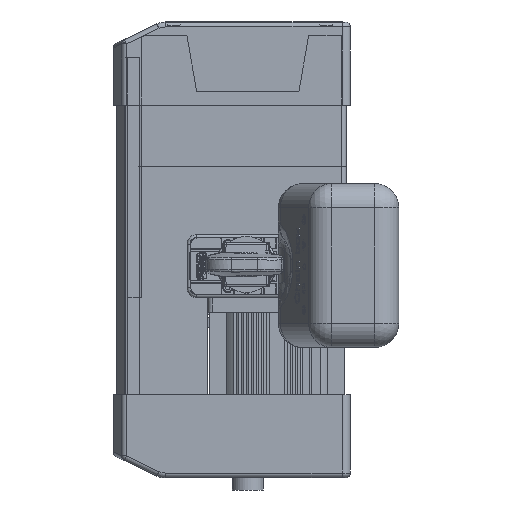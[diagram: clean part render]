
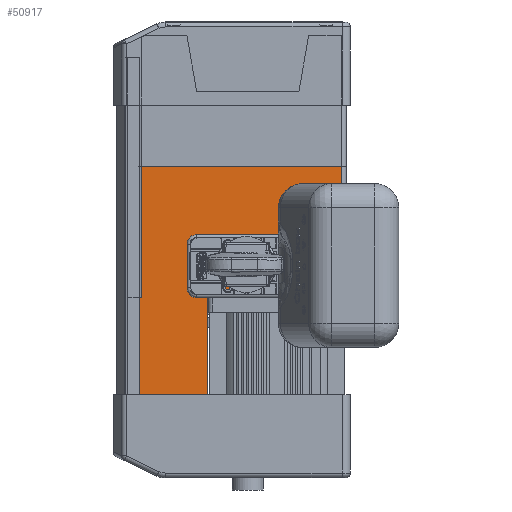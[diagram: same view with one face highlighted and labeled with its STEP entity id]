
A CAD part, front view. The second image highlights one B-rep face of the part: STEP entity #50917.
In plain terms, the highlighted planar face has unit normal (0, -1, 0).
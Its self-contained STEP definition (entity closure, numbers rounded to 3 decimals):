
#1242=LINE('',#74391,#5339);
#1293=LINE('',#74536,#5390);
#1294=LINE('',#74539,#5391);
#1295=LINE('',#74540,#5392);
#1296=LINE('',#74542,#5393);
#1297=LINE('',#74553,#5394);
#1298=LINE('',#74555,#5395);
#5339=VECTOR('',#59745,1000.);
#5390=VECTOR('',#59842,1000.);
#5391=VECTOR('',#59843,1000.);
#5392=VECTOR('',#59844,1000.);
#5393=VECTOR('',#59845,1000.);
#5394=VECTOR('',#59846,1000.);
#5395=VECTOR('',#59847,1000.);
#9667=B_SPLINE_CURVE_WITH_KNOTS('',3,(#74531,#74532,#74533,#74534),
 .UNSPECIFIED.,.F.,.F.,(4,4),(0.644,0.668),
 .UNSPECIFIED.);
#9668=B_SPLINE_CURVE_WITH_KNOTS('',3,(#74543,#74544,#74545,#74546),
 .UNSPECIFIED.,.F.,.F.,(4,4),(0.356,1.),.UNSPECIFIED.);
#9669=B_SPLINE_CURVE_WITH_KNOTS('',3,(#74548,#74549,#74550,#74551),
 .UNSPECIFIED.,.F.,.F.,(4,4),(0.,0.986),.UNSPECIFIED.);
#11895=ORIENTED_EDGE('',*,*,#27255,.T.);
#11896=ORIENTED_EDGE('',*,*,#27256,.F.);
#11897=ORIENTED_EDGE('',*,*,#27186,.T.);
#11898=ORIENTED_EDGE('',*,*,#27257,.T.);
#11899=ORIENTED_EDGE('',*,*,#27258,.T.);
#11900=ORIENTED_EDGE('',*,*,#27254,.T.);
#11901=ORIENTED_EDGE('',*,*,#27259,.T.);
#11902=ORIENTED_EDGE('',*,*,#27260,.T.);
#11903=ORIENTED_EDGE('',*,*,#27261,.T.);
#11904=ORIENTED_EDGE('',*,*,#27262,.F.);
#27186=EDGE_CURVE('',#34880,#34879,#1242,.T.);
#27254=EDGE_CURVE('',#34936,#34937,#9667,.F.);
#27255=EDGE_CURVE('',#34938,#34939,#1293,.T.);
#27256=EDGE_CURVE('',#34880,#34939,#1294,.T.);
#27257=EDGE_CURVE('',#34879,#34940,#1295,.T.);
#27258=EDGE_CURVE('',#34940,#34936,#1296,.T.);
#27259=EDGE_CURVE('',#34937,#34941,#9668,.T.);
#27260=EDGE_CURVE('',#34941,#34942,#9669,.T.);
#27261=EDGE_CURVE('',#34942,#34943,#1297,.T.);
#27262=EDGE_CURVE('',#34938,#34943,#1298,.F.);
#34879=VERTEX_POINT('',#74390);
#34880=VERTEX_POINT('',#74392);
#34936=VERTEX_POINT('',#74524);
#34937=VERTEX_POINT('',#74530);
#34938=VERTEX_POINT('',#74537);
#34939=VERTEX_POINT('',#74538);
#34940=VERTEX_POINT('',#74541);
#34941=VERTEX_POINT('',#74547);
#34942=VERTEX_POINT('',#74552);
#34943=VERTEX_POINT('',#74554);
#41863=EDGE_LOOP('',(#11895,#11896,#11897,#11898,#11899,#11900,#11901,#11902,
#11903,#11904));
#45710=FACE_BOUND('',#41863,.T.);
#49544=PLANE('',#54445);
#50917=ADVANCED_FACE('',(#45710),#49544,.T.);
#54445=AXIS2_PLACEMENT_3D('',#74535,#59840,#59841);
#59745=DIRECTION('',(0.,0.,-1.));
#59840=DIRECTION('',(0.,-1.,0.));
#59841=DIRECTION('',(1.,0.,0.));
#59842=DIRECTION('',(0.,0.,-1.));
#59843=DIRECTION('',(1.,0.,0.));
#59844=DIRECTION('',(1.,0.,0.));
#59845=DIRECTION('',(0.,0.,1.));
#59846=DIRECTION('',(0.,0.,1.));
#59847=DIRECTION('',(-1.,0.,0.));
#74390=CARTESIAN_POINT('',(-139.392,-738.742,147.427));
#74391=CARTESIAN_POINT('',(-139.392,-738.742,359.427));
#74392=CARTESIAN_POINT('',(-139.392,-738.742,245.927));
#74524=CARTESIAN_POINT('',(-70.,-738.742,245.927));
#74530=CARTESIAN_POINT('',(-65.001,-738.742,245.927));
#74531=CARTESIAN_POINT('',(-65.001,-738.742,245.927));
#74532=CARTESIAN_POINT('',(-66.667,-738.742,245.927));
#74533=CARTESIAN_POINT('',(-68.334,-738.742,245.927));
#74534=CARTESIAN_POINT('',(-70.,-738.742,245.927));
#74535=CARTESIAN_POINT('',(63.,-738.742,227.427));
#74536=CARTESIAN_POINT('',(-137.,-738.742,801.877));
#74537=CARTESIAN_POINT('',(-137.,-738.742,378.927));
#74538=CARTESIAN_POINT('',(-137.,-738.742,245.927));
#74539=CARTESIAN_POINT('',(63.,-738.742,245.927));
#74540=CARTESIAN_POINT('',(63.,-738.742,147.427));
#74541=CARTESIAN_POINT('',(-70.,-738.742,147.427));
#74542=CARTESIAN_POINT('',(-70.,-738.742,227.427));
#74543=CARTESIAN_POINT('',(-65.001,-738.742,245.927));
#74544=CARTESIAN_POINT('',(-21.667,-738.742,245.927));
#74545=CARTESIAN_POINT('',(21.666,-738.742,245.927));
#74546=CARTESIAN_POINT('',(65.,-738.742,245.927));
#74547=CARTESIAN_POINT('',(65.,-738.742,245.927));
#74548=CARTESIAN_POINT('',(65.,-738.742,245.927));
#74549=CARTESIAN_POINT('',(65.,-738.742,280.927));
#74550=CARTESIAN_POINT('',(65.,-738.742,315.927));
#74551=CARTESIAN_POINT('',(65.,-738.742,350.927));
#74552=CARTESIAN_POINT('',(65.,-738.742,350.927));
#74553=CARTESIAN_POINT('',(65.,-738.742,227.427));
#74554=CARTESIAN_POINT('',(65.,-738.742,378.927));
#74555=CARTESIAN_POINT('',(-137.,-738.742,378.927));
